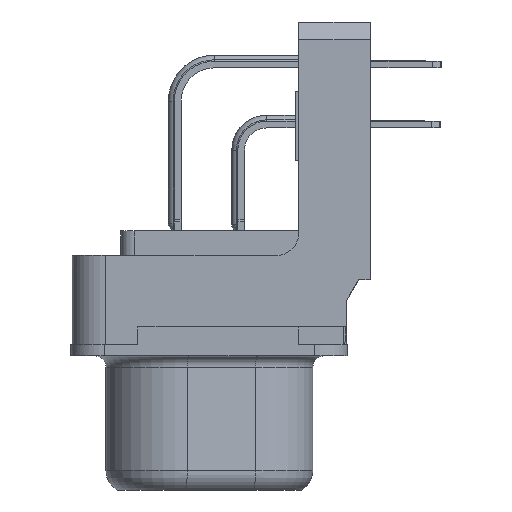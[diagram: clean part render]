
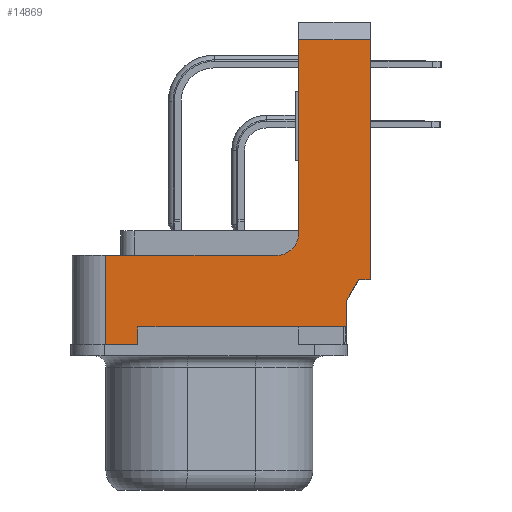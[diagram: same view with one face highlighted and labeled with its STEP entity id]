
A CAD part, left-side view. The second image highlights one B-rep face of the part: STEP entity #14869.
In plain terms, the highlighted planar face has unit normal (-1, 0, 0).
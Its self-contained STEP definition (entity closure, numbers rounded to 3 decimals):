
#12981=FACE_OUTER_BOUND('',#19025,.T.);
#14869=ADVANCED_FACE('',(#12981),#16795,.T.);
#16795=PLANE('',#46507);
#17660=CIRCLE('',#46506,1.);
#19025=EDGE_LOOP('',(#23223,#23224,#23225,#23226,#23227,#23228,#23229,#23230,
#23231,#23232,#23233,#23234));
#23223=ORIENTED_EDGE('',*,*,#34888,.T.);
#23224=ORIENTED_EDGE('',*,*,#35635,.T.);
#23225=ORIENTED_EDGE('',*,*,#35636,.T.);
#23226=ORIENTED_EDGE('',*,*,#35637,.T.);
#23227=ORIENTED_EDGE('',*,*,#35638,.T.);
#23228=ORIENTED_EDGE('',*,*,#35621,.T.);
#23229=ORIENTED_EDGE('',*,*,#35284,.T.);
#23230=ORIENTED_EDGE('',*,*,#35094,.F.);
#23231=ORIENTED_EDGE('',*,*,#35438,.F.);
#23232=ORIENTED_EDGE('',*,*,#35442,.T.);
#23233=ORIENTED_EDGE('',*,*,#35453,.T.);
#23234=ORIENTED_EDGE('',*,*,#35639,.T.);
#31935=VERTEX_POINT('',#58714);
#31936=VERTEX_POINT('',#58716);
#32121=VERTEX_POINT('',#59214);
#32122=VERTEX_POINT('',#59216);
#32270=VERTEX_POINT('',#59610);
#32393=VERTEX_POINT('',#59918);
#32396=VERTEX_POINT('',#59926);
#32403=VERTEX_POINT('',#59946);
#32548=VERTEX_POINT('',#60507);
#32554=VERTEX_POINT('',#60531);
#32555=VERTEX_POINT('',#60533);
#32556=VERTEX_POINT('',#60535);
#34888=EDGE_CURVE('',#31936,#31935,#39575,.T.);
#35094=EDGE_CURVE('',#32121,#32122,#39723,.T.);
#35284=EDGE_CURVE('',#32270,#32122,#39864,.T.);
#35438=EDGE_CURVE('',#32393,#32121,#39995,.T.);
#35442=EDGE_CURVE('',#32393,#32396,#39999,.T.);
#35453=EDGE_CURVE('',#32396,#32403,#40009,.T.);
#35621=EDGE_CURVE('',#32548,#32270,#40141,.T.);
#35635=EDGE_CURVE('',#31935,#32554,#40153,.T.);
#35636=EDGE_CURVE('',#32554,#32555,#40154,.T.);
#35637=EDGE_CURVE('',#32555,#32556,#17660,.T.);
#35638=EDGE_CURVE('',#32556,#32548,#40155,.T.);
#35639=EDGE_CURVE('',#32403,#31936,#40156,.T.);
#39575=LINE('',#58715,#41979);
#39723=LINE('',#59215,#42127);
#39864=LINE('',#59609,#42268);
#39995=LINE('',#59919,#42399);
#39999=LINE('',#59927,#42403);
#40009=LINE('',#59947,#42413);
#40141=LINE('',#60506,#42545);
#40153=LINE('',#60530,#42557);
#40154=LINE('',#60532,#42558);
#40155=LINE('',#60536,#42559);
#40156=LINE('',#60537,#42560);
#41979=VECTOR('',#49218,1.);
#42127=VECTOR('',#49534,1.);
#42268=VECTOR('',#49847,1.);
#42399=VECTOR('',#50088,1.);
#42403=VECTOR('',#50094,1.);
#42413=VECTOR('',#50110,1.);
#42545=VECTOR('',#50314,1.);
#42557=VECTOR('',#50338,1.);
#42558=VECTOR('',#50339,1.);
#42559=VECTOR('',#50342,1.);
#42560=VECTOR('',#50343,1.);
#46506=AXIS2_PLACEMENT_3D('',#60534,#50340,#50341);
#46507=AXIS2_PLACEMENT_3D('',#60538,#50344,#50345);
#49218=DIRECTION('',(0.,0.,1.));
#49534=DIRECTION('',(0.,0.,-1.));
#49847=DIRECTION('',(0.,-1.,0.));
#50088=DIRECTION('',(0.,1.,0.));
#50094=DIRECTION('',(0.,0.,1.));
#50110=DIRECTION('',(0.,-0.5,0.866));
#50314=DIRECTION('',(0.,0.,-1.));
#50338=DIRECTION('',(0.,1.,0.));
#50339=DIRECTION('',(0.,0.,-1.));
#50340=DIRECTION('',(1.,0.,0.));
#50341=DIRECTION('',(0.,-1.,0.));
#50342=DIRECTION('',(0.,1.,0.));
#50343=DIRECTION('',(0.,-1.,0.));
#50344=DIRECTION('',(-1.,0.,0.));
#50345=DIRECTION('',(0.,-1.,0.));
#58714=CARTESIAN_POINT('',(-15.6,-7.2,13.65));
#58715=CARTESIAN_POINT('',(-15.6,-7.2,3.819));
#58716=CARTESIAN_POINT('',(-15.6,-7.2,2.919));
#59214=CARTESIAN_POINT('',(-15.6,3.2,0.8));
#59215=CARTESIAN_POINT('',(-15.6,3.2,0.));
#59216=CARTESIAN_POINT('',(-15.6,3.2,0.));
#59609=CARTESIAN_POINT('',(-15.6,6.15,0.));
#59610=CARTESIAN_POINT('',(-15.6,4.65,0.));
#59918=CARTESIAN_POINT('',(-15.6,-6.15,0.8));
#59919=CARTESIAN_POINT('',(-15.6,6.15,0.8));
#59926=CARTESIAN_POINT('',(-15.6,-6.15,2.));
#59927=CARTESIAN_POINT('',(-15.6,-6.15,0.));
#59946=CARTESIAN_POINT('',(-15.6,-6.68,2.919));
#59947=CARTESIAN_POINT('',(-15.6,-6.15,2.));
#60506=CARTESIAN_POINT('',(-15.6,4.65,0.));
#60507=CARTESIAN_POINT('',(-15.6,4.65,4.));
#60530=CARTESIAN_POINT('',(-15.6,-4.,13.65));
#60531=CARTESIAN_POINT('',(-15.6,-4.,13.65));
#60532=CARTESIAN_POINT('',(-15.6,-4.,14.45));
#60533=CARTESIAN_POINT('',(-15.6,-4.,5.));
#60534=CARTESIAN_POINT('',(-15.6,-3.,5.));
#60535=CARTESIAN_POINT('',(-15.6,-3.,4.));
#60536=CARTESIAN_POINT('',(-15.6,6.15,4.));
#60537=CARTESIAN_POINT('',(-15.6,-5.2,2.919));
#60538=CARTESIAN_POINT('',(-15.6,6.15,0.));
